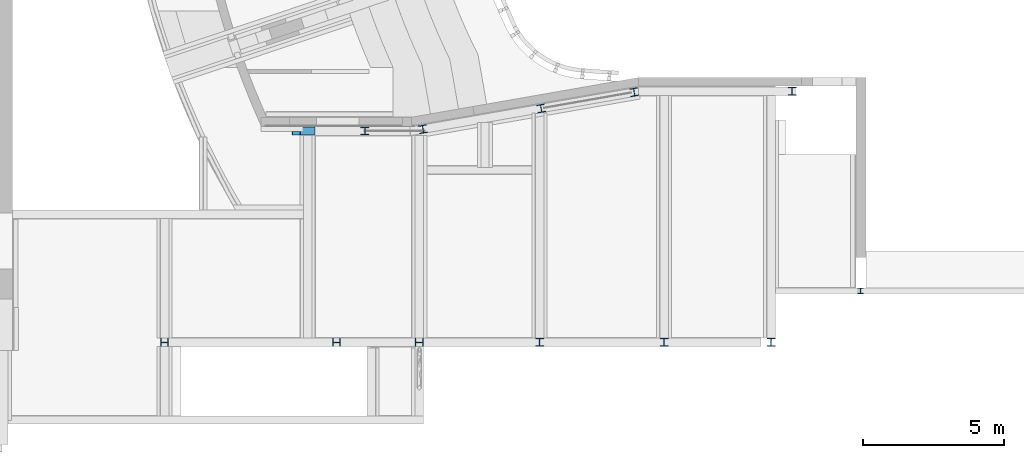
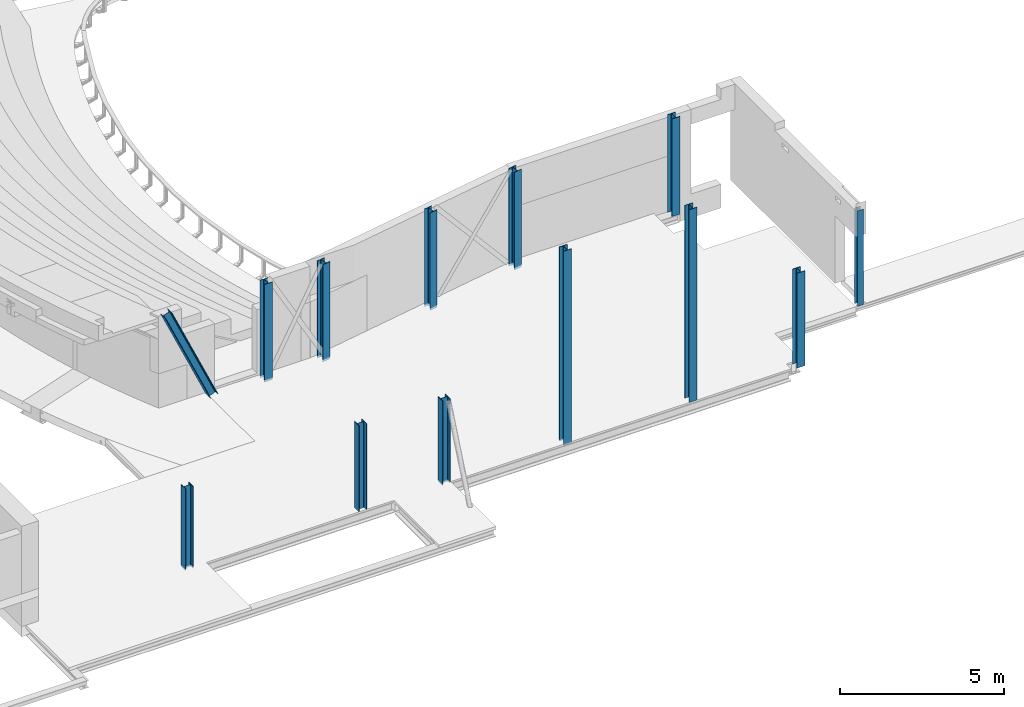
# One storey, part 5 of 68: 13 columns.
"""IFC2X3 building model written with IfcOpenShell, lengths in millimetres."""

from ifc_helpers import new_model, entity, si_unit, converted_unit, derived_unit, direction, frame, frame_2d, origin, place, context, subcontext, project, spatial, polyline, circle_curve, parameter, trimmed, segment, composite_curve, i_section, outline, extrude, source, transform, mapped, material, type_object, type_shapes, element, save


model = new_model("IFC2X3")

# Units and contexts
model_context = context("Model", 3, precision=0.01, world=origin(), true_north=direction((6.12303176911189e-17, 1.0)))
body_context = subcontext(model_context, "Body", "Model", "MODEL_VIEW")
ifc_project = project(units=[si_unit("LENGTHUNIT", "METRE", prefix="MILLI"), si_unit("AREAUNIT", "SQUARE_METRE", prefix="MILLI"), si_unit("VOLUMEUNIT", "CUBIC_METRE"), converted_unit("PLANEANGLEUNIT", "DEGREE", entity("IfcRatioMeasure", 0.0174532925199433), si_unit("PLANEANGLEUNIT", "RADIAN"), dimensions=[0, 0, 0, 0, 0, 0, 0]), si_unit("MASSUNIT", "GRAM", prefix="KILO"), derived_unit("MASSDENSITYUNIT", [(si_unit("MASSUNIT", "GRAM", prefix="KILO"), 1), (si_unit("LENGTHUNIT", "METRE"), -3)]), derived_unit("MOMENTOFINERTIAUNIT", [(si_unit("LENGTHUNIT", "METRE"), 4)]), si_unit("TIMEUNIT", "SECOND"), si_unit("FREQUENCYUNIT", "HERTZ"), si_unit("THERMODYNAMICTEMPERATUREUNIT", "DEGREE_CELSIUS"), derived_unit("THERMALTRANSMITTANCEUNIT", [(si_unit("MASSUNIT", "GRAM", prefix="KILO"), 1), (si_unit("THERMODYNAMICTEMPERATUREUNIT", "KELVIN"), -1), (si_unit("TIMEUNIT", "SECOND"), -3)]), derived_unit("VOLUMETRICFLOWRATEUNIT", [(si_unit("LENGTHUNIT", "METRE"), 3), (si_unit("TIMEUNIT", "SECOND"), -1)]), si_unit("ELECTRICCURRENTUNIT", "AMPERE"), si_unit("ELECTRICVOLTAGEUNIT", "VOLT"), si_unit("POWERUNIT", "WATT"), si_unit("FORCEUNIT", "NEWTON", prefix="KILO"), si_unit("ILLUMINANCEUNIT", "LUX"), si_unit("LUMINOUSFLUXUNIT", "LUMEN"), si_unit("LUMINOUSINTENSITYUNIT", "CANDELA"), derived_unit("USERDEFINED", [(si_unit("MASSUNIT", "GRAM", prefix="KILO"), -1), (si_unit("LENGTHUNIT", "METRE"), -2), (si_unit("TIMEUNIT", "SECOND"), 3), (si_unit("LUMINOUSFLUXUNIT", "LUMEN"), 1)]), derived_unit("LINEARVELOCITYUNIT", [(si_unit("LENGTHUNIT", "METRE"), 1), (si_unit("TIMEUNIT", "SECOND"), -1)]), si_unit("PRESSUREUNIT", "PASCAL"), derived_unit("USERDEFINED", [(si_unit("LENGTHUNIT", "METRE"), -2), (si_unit("MASSUNIT", "GRAM", prefix="KILO"), 1), (si_unit("TIMEUNIT", "SECOND"), -2)]), derived_unit("LINEARFORCEUNIT", [(si_unit("MASSUNIT", "GRAM", prefix="KILO"), 1), (si_unit("LENGTHUNIT", "METRE"), 1), (si_unit("TIMEUNIT", "SECOND"), -2), (si_unit("LENGTHUNIT", "METRE"), -1)]), derived_unit("PLANARFORCEUNIT", [(si_unit("MASSUNIT", "GRAM", prefix="KILO"), 1), (si_unit("LENGTHUNIT", "METRE"), 1), (si_unit("TIMEUNIT", "SECOND"), -2), (si_unit("LENGTHUNIT", "METRE"), -2)])], contexts=[model_context])

# Site, building, storey
site_placement = place(None, origin())
site = spatial("IfcSite", under=ifc_project, at=site_placement, Name="Theater aan de Parade", CompositionType="ELEMENT")
building_placement = place(site_placement, origin())
building = spatial("IfcBuilding", under=site, at=building_placement, Name="Theater aan de Parade", CompositionType="ELEMENT")
storey_placement = place(building_placement, frame((0.0, 0.0, 8750.0)))
storey = spatial("IfcBuildingStorey", under=building, at=storey_placement, Name="02 tweede verdieping", CompositionType="ELEMENT", Elevation=8750.0)

# Columns
ifc_material = material(Name="00_PBT_MAT_staal_S355")
column_type_1 = type_object("IfcColumnType", Name="28_PBT_SC_staal_H-profiel:S355_HE280B", PredefinedType="COLUMN", material=ifc_material)
shared_shape_1 = source(origin(), body_context, "Body", "SweptSolid", [
    extrude(i_section(OverallWidth=279.999999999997, OverallDepth=279.999999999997, WebThickness=10.4999999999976, FlangeThickness=18.0000000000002, FilletRadius=24.0000000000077, at=frame_2d((0.0, 4.32009983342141e-12), x_axis=(0.0, 1.0))), frame((49946.4713059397, 20445.0, 8590.0), z_axis=(0.0, 0.0, 1.0), x_axis=(0.0, -1.0, 0.0)), (0.0, 0.0, 1.0), 3630.0),
])
type_shapes(column_type_1, [shared_shape_1])
column_1_placement = place(storey_placement, frame((0.0, 0.0, -8750.0)))
element("IfcColumn", 1, at=column_1_placement, inside=storey, type_object=column_type_1, material=ifc_material, Name="28_PBT_SC_staal_H-profiel:S355_HE280B", ObjectType="28_PBT_SC_staal_H-profiel:S355_HE280B", context=body_context, shape_type="MappedRepresentation", body=[
    mapped(shared_shape_1, transform((0.0, 0.0, 0.0), scale=1.0)),
])
column_type_2 = type_object("IfcColumnType", Name="28_PBT_SC_staal_H-profiel:S355_HE280B", PredefinedType="COLUMN", material=ifc_material)
shared_shape_2 = source(origin(), body_context, "Body", "SweptSolid", [
    extrude(i_section(OverallWidth=279.999999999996, OverallDepth=280.000000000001, WebThickness=10.5000000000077, FlangeThickness=18.0, FilletRadius=24.0000000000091, at=frame_2d((7.38964445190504e-13, 4.2774672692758e-12), x_axis=(1.0, 0.0))), frame((56193.2454552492, 21244.1973974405, 8585.0), z_axis=(0.0, 0.0, 1.0), x_axis=(-0.985030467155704, -0.172380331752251, 0.0)), (0.0, 0.0, 1.0), 3630.0),
])
type_shapes(column_type_2, [shared_shape_2])
column_2_placement = place(storey_placement, frame((0.0, 0.0, -8750.0)))
element("IfcColumn", 2, at=column_2_placement, inside=storey, type_object=column_type_2, material=ifc_material, Name="28_PBT_SC_staal_H-profiel:S355_HE280B", ObjectType="28_PBT_SC_staal_H-profiel:S355_HE280B", context=body_context, shape_type="MappedRepresentation", body=[
    mapped(shared_shape_2, transform((0.0, 0.0, 0.0), scale=1.0)),
])
column_type_3 = type_object("IfcColumnType", Name="28_PBT_SC_staal_H-profiel:S355_HE280B", PredefinedType="COLUMN", material=ifc_material)
shared_shape_3 = source(origin(), body_context, "Body", "SweptSolid", [
    extrude(i_section(OverallWidth=279.999999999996, OverallDepth=280.000000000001, WebThickness=10.5000000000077, FlangeThickness=18.0, FilletRadius=24.0000000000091, at=frame_2d((-8.5265128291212e-12, 1.49213974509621e-12), x_axis=(1.0, 0.0))), frame((59491.1870358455, 21821.3371740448, 8585.0), z_axis=(0.0, 0.0, 1.0), x_axis=(-0.985030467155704, -0.172380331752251, 0.0)), (0.0, 0.0, 1.0), 3630.0),
])
type_shapes(column_type_3, [shared_shape_3])
column_3_placement = place(storey_placement, frame((0.0, 0.0, -8750.0)))
element("IfcColumn", 3, at=column_3_placement, inside=storey, type_object=column_type_3, material=ifc_material, Name="28_PBT_SC_staal_H-profiel:S355_HE280B", ObjectType="28_PBT_SC_staal_H-profiel:S355_HE280B", context=body_context, shape_type="MappedRepresentation", body=[
    mapped(shared_shape_3, transform((0.0, 0.0, 0.0), scale=1.0)),
])
column_type_4 = type_object("IfcColumnType", Name="28_PBT_SC_staal_H-profiel:S355_HE280B", PredefinedType="COLUMN", material=ifc_material)
shared_shape_4 = source(origin(), body_context, "Body", "SweptSolid", [
    extrude(i_section(OverallWidth=279.999999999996, OverallDepth=280.000000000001, WebThickness=10.5000000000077, FlangeThickness=18.0, FilletRadius=24.0000000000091, at=frame_2d((8.5265128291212e-12, -1.49213974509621e-12), x_axis=(1.0, 0.0))), frame((52005.6821149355, 20511.3738128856, 8585.0), z_axis=(0.0, 0.0, 1.0), x_axis=(-0.985030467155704, -0.172380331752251, 0.0)), (0.0, 0.0, 1.0), 3615.0),
])
type_shapes(column_type_4, [shared_shape_4])
column_4_placement = place(storey_placement, frame((0.0, 0.0, -8750.0)))
element("IfcColumn", 4, at=column_4_placement, inside=storey, type_object=column_type_4, material=ifc_material, Name="28_PBT_SC_staal_H-profiel:S355_HE280B", ObjectType="28_PBT_SC_staal_H-profiel:S355_HE280B", context=body_context, shape_type="MappedRepresentation", body=[
    mapped(shared_shape_4, transform((0.0, 0.0, 0.0), scale=1.0)),
])
column_type_5 = type_object("IfcColumnType", Name="28_PBT_SC_staal_H-profiel:S355_HE280B", PredefinedType="COLUMN", material=ifc_material)
shared_shape_5 = source(origin(), body_context, "Body", "SweptSolid", [
    extrude(i_section(OverallWidth=279.999999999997, OverallDepth=279.999999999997, WebThickness=10.5000000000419, FlangeThickness=18.0000000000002, FilletRadius=24.0000000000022, at=frame_2d((0.0, 4.32009983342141e-12), x_axis=(0.0, 1.0))), frame((65087.0520755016, 21855.0, 8590.0), z_axis=(0.0, 0.0, 1.0), x_axis=(0.0, -1.0, 0.0)), (0.0, 0.0, 1.0), 3630.0),
])
type_shapes(column_type_5, [shared_shape_5])
column_5_placement = place(storey_placement, frame((0.0, 0.0, -8750.0)))
element("IfcColumn", 5, at=column_5_placement, inside=storey, type_object=column_type_5, material=ifc_material, Name="28_PBT_SC_staal_H-profiel:S355_HE280B", ObjectType="28_PBT_SC_staal_H-profiel:S355_HE280B", context=body_context, shape_type="MappedRepresentation", body=[
    mapped(shared_shape_5, transform((0.0, 0.0, 0.0), scale=1.0)),
])
column_type_6 = type_object("IfcColumnType", Name="28_PBT_SC_staal_H-profiel:S355_HE280B", PredefinedType="COLUMN", material=ifc_material)
shared_shape_6 = source(origin(), body_context, "Body", "SweptSolid", [
    extrude(i_section(OverallWidth=279.999999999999, OverallDepth=280.000000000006, WebThickness=10.4999999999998, FlangeThickness=17.9999999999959, FilletRadius=24.0000000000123, at=frame_2d((1.08002495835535e-12, 0.0), x_axis=(1.0, 0.0))), frame((51875.3051596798, 12955.0, 8610.0), z_axis=(0.0, 0.0, 1.0), x_axis=(0.0, -1.0, 0.0)), (0.0, 0.0, 1.0), 3150.0),
])
type_shapes(column_type_6, [shared_shape_6])
column_6_placement = place(storey_placement, frame((0.0, 0.0, -8750.0)))
element("IfcColumn", 6, at=column_6_placement, inside=storey, type_object=column_type_6, material=ifc_material, Name="28_PBT_SC_staal_H-profiel:S355_HE280B", ObjectType="28_PBT_SC_staal_H-profiel:S355_HE280B", context=body_context, shape_type="MappedRepresentation", body=[
    mapped(shared_shape_6, transform((0.0, 0.0, 0.0), scale=1.0)),
])
column_type_7 = type_object("IfcColumnType", Name="28_PBT_SC_staal_H-profiel:S355_HE280B", PredefinedType="COLUMN", material=ifc_material)
shared_shape_7 = source(origin(), body_context, "Body", "SweptSolid", [
    extrude(i_section(OverallWidth=279.999999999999, OverallDepth=280.000000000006, WebThickness=10.4999999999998, FlangeThickness=17.9999999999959, FilletRadius=24.0000000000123, at=frame_2d((-1.08002495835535e-12, -8.65441052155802e-12), x_axis=(1.0, 0.0))), frame((42844.9091634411, 12955.0, 8610.0), z_axis=(0.0, 0.0, 1.0), x_axis=(0.0, -1.0, 0.0)), (0.0, 0.0, 1.0), 3040.0),
])
type_shapes(column_type_7, [shared_shape_7])
column_7_placement = place(storey_placement, frame((0.0, 0.0, -8750.0)))
element("IfcColumn", 7, at=column_7_placement, inside=storey, type_object=column_type_7, material=ifc_material, Name="28_PBT_SC_staal_H-profiel:S355_HE280B", ObjectType="28_PBT_SC_staal_H-profiel:S355_HE280B", context=body_context, shape_type="MappedRepresentation", body=[
    mapped(shared_shape_7, transform((0.0, 0.0, 0.0), scale=1.0)),
])
column_type_8 = type_object("IfcColumnType", Name="28_PBT_SC_staal_H-profiel:S355_HE280B", PredefinedType="COLUMN", material=ifc_material)
shared_shape_8 = source(origin(), body_context, "Body", "SweptSolid", [
    extrude(outline(composite_curve([segment(polyline([(122.0, -140.0), (140.0, -140.0)]), True, "CONTINUOUS"), segment(polyline([(140.0, -140.0), (140.0, 140.0)]), True, "CONTINUOUS"), segment(polyline([(140.0, 140.0), (122.0, 140.0)]), True, "CONTINUOUS"), segment(polyline([(122.0, 140.0), (122.0, 29.2500000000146)]), True, "CONTINUOUS"), segment(trimmed(circle_curve(frame_2d((98.0, 29.2500000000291), x_axis=(1.0, 0.0)), 24.0000000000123), [parameter(270.000000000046)], [parameter(0.0)], True, "PARAMETER"), False, "CONTINUOUS"), segment(polyline([(98.0, 5.25000000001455), (-98.0, 5.25000000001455)]), True, "CONTINUOUS"), segment(trimmed(circle_curve(frame_2d((-98.0, 29.2500000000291), x_axis=(0.0, -1.0)), 24.0000000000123), [parameter(270.000000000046)], [parameter(0.0)], True, "PARAMETER"), False, "CONTINUOUS"), segment(polyline([(-122.0, 29.2500000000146), (-122.0, 140.0)]), True, "CONTINUOUS"), segment(polyline([(-122.0, 140.0), (-140.0, 140.0)]), True, "CONTINUOUS"), segment(polyline([(-140.0, 140.0), (-140.0, -140.0)]), True, "CONTINUOUS"), segment(polyline([(-140.0, -140.0), (-122.0, -140.0)]), True, "CONTINUOUS"), segment(polyline([(-122.0, -140.0), (-122.0, -29.2499999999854)]), True, "CONTINUOUS"), segment(trimmed(circle_curve(frame_2d((-98.0, -29.2499999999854), x_axis=(-1.0, 0.0)), 24.0000000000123), [parameter(270.000000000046)], [parameter(0.0)], True, "PARAMETER"), False, "CONTINUOUS"), segment(polyline([(-98.0, -5.24999999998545), (98.0, -5.24999999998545)]), True, "CONTINUOUS"), segment(trimmed(circle_curve(frame_2d((98.0, -29.2499999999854), x_axis=(0.0, 1.0)), 24.0000000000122), [parameter(270.000000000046)], [parameter(0.0)], True, "PARAMETER"), False, "CONTINUOUS"), segment(polyline([(122.0, -29.2499999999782), (122.0, -140.0)]), True, "CONTINUOUS")], self_intersect=False)), frame((64344.5520755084, 12955.0, 8610.0), z_axis=(0.0, 0.0, 1.0), x_axis=(0.0, -1.0, 0.0)), (0.0, 0.0, 1.0), 3525.0),
])
type_shapes(column_type_8, [shared_shape_8])
column_8_placement = place(storey_placement, frame((0.0, 0.0, -8750.0)))
element("IfcColumn", 8, at=column_8_placement, inside=storey, type_object=column_type_8, material=ifc_material, Name="28_PBT_SC_staal_H-profiel:S355_HE280B", ObjectType="28_PBT_SC_staal_H-profiel:S355_HE280B", context=body_context, shape_type="MappedRepresentation", body=[
    mapped(shared_shape_8, transform((0.0, 0.0, 0.0), scale=1.0)),
])
column_type_9 = type_object("IfcColumnType", Name="28_PBT_SC_staal_H-profiel:S355_HE280B", PredefinedType="COLUMN", material=ifc_material)
shared_shape_9 = source(origin(), body_context, "Body", "SweptSolid", [
    extrude(outline(composite_curve([segment(polyline([(122.0, -140.0), (140.0, -140.0)]), True, "CONTINUOUS"), segment(polyline([(140.0, -140.0), (140.0, 140.0)]), True, "CONTINUOUS"), segment(polyline([(140.0, 140.0), (122.0, 140.0)]), True, "CONTINUOUS"), segment(polyline([(122.0, 140.0), (122.0, 29.2500000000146)]), True, "CONTINUOUS"), segment(trimmed(circle_curve(frame_2d((98.0, 29.2500000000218), x_axis=(1.0, 0.0)), 24.0000000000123), [parameter(270.000000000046)], [parameter(0.0)], True, "PARAMETER"), False, "CONTINUOUS"), segment(polyline([(98.0, 5.25000000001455), (-98.0, 5.25000000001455)]), True, "CONTINUOUS"), segment(trimmed(circle_curve(frame_2d((-98.0, 29.2500000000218), x_axis=(0.0, -1.0)), 24.0000000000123), [parameter(270.000000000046)], [parameter(0.0)], True, "PARAMETER"), False, "CONTINUOUS"), segment(polyline([(-122.0, 29.2500000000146), (-122.0, 140.0)]), True, "CONTINUOUS"), segment(polyline([(-122.0, 140.0), (-140.0, 140.0)]), True, "CONTINUOUS"), segment(polyline([(-140.0, 140.0), (-140.0, -140.0)]), True, "CONTINUOUS"), segment(polyline([(-140.0, -140.0), (-122.0, -140.0)]), True, "CONTINUOUS"), segment(polyline([(-122.0, -140.0), (-122.0, -29.2499999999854)]), True, "CONTINUOUS"), segment(trimmed(circle_curve(frame_2d((-98.0, -29.2499999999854), x_axis=(-1.0, 0.0)), 24.0000000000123), [parameter(270.000000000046)], [parameter(0.0)], True, "PARAMETER"), False, "CONTINUOUS"), segment(polyline([(-98.0, -5.24999999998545), (98.0, -5.24999999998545)]), True, "CONTINUOUS"), segment(trimmed(circle_curve(frame_2d((98.0, -29.2499999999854), x_axis=(0.0, 1.0)), 24.0000000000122), [parameter(270.000000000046)], [parameter(0.0)], True, "PARAMETER"), False, "CONTINUOUS"), segment(polyline([(122.0, -29.2499999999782), (122.0, -140.0)]), True, "CONTINUOUS")], self_intersect=False)), frame((56139.5687867, 12955.0, 8610.0), z_axis=(0.0, 0.0, 1.0), x_axis=(0.0, -1.0, 0.0)), (0.0, 0.0, 1.0), 7220.0),
])
type_shapes(column_type_9, [shared_shape_9])
column_9_placement = place(storey_placement, frame((0.0, 0.0, -8750.0)))
element("IfcColumn", 9, at=column_9_placement, inside=storey, type_object=column_type_9, material=ifc_material, Name="28_PBT_SC_staal_H-profiel:S355_HE280B", ObjectType="28_PBT_SC_staal_H-profiel:S355_HE280B", context=body_context, shape_type="MappedRepresentation", body=[
    mapped(shared_shape_9, transform((0.0, 0.0, 0.0), scale=1.0)),
])
column_type_10 = type_object("IfcColumnType", Name="28_PBT_SC_staal_H-profiel:S355_HE280B", PredefinedType="COLUMN", material=ifc_material)
shared_shape_10 = source(origin(), body_context, "Body", "SweptSolid", [
    extrude(i_section(OverallWidth=279.999999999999, OverallDepth=280.000000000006, WebThickness=10.4999999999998, FlangeThickness=17.9999999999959, FilletRadius=24.0000000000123, at=frame_2d((1.08002495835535e-12, 8.65441052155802e-12), x_axis=(1.0, 0.0))), frame((48938.580371, 12955.0, 8660.0), z_axis=(0.0, 0.0, 1.0), x_axis=(0.0, -1.0, 0.0)), (0.0, 0.0, 1.0), 3200.0),
])
type_shapes(column_type_10, [shared_shape_10])
column_10_placement = place(storey_placement, frame((0.0, 0.0, -8750.0)))
element("IfcColumn", 10, at=column_10_placement, inside=storey, type_object=column_type_10, material=ifc_material, Name="28_PBT_SC_staal_H-profiel:S355_HE280B", ObjectType="28_PBT_SC_staal_H-profiel:S355_HE280B", context=body_context, shape_type="MappedRepresentation", body=[
    mapped(shared_shape_10, transform((0.0, 0.0, 0.0), scale=1.0)),
])
column_type_11 = type_object("IfcColumnType", Name="28_PBT_SC_staal_H-profiel:S355_HE200B", PredefinedType="COLUMN", material=ifc_material)
shared_shape_11 = source(origin(), body_context, "Body", "SweptSolid", [
    extrude(i_section(OverallWidth=199.999999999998, OverallDepth=200.0, WebThickness=8.99999999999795, FlangeThickness=15.0000000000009, FilletRadius=17.9999999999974, at=frame_2d((1.08713038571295e-12, 4.33431068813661e-12), x_axis=(0.0, 1.0))), frame((67516.0563479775, 14780.0, 8650.0), z_axis=(0.0, 0.0, 1.0), x_axis=(0.0, -1.0, 0.0)), (0.0, 0.0, 1.0), 3550.0),
])
type_shapes(column_type_11, [shared_shape_11])
column_11_placement = place(storey_placement, frame((0.0, 0.0, -8750.0)))
element("IfcColumn", 11, at=column_11_placement, inside=storey, type_object=column_type_11, material=ifc_material, Name="28_PBT_SC_staal_H-profiel:S355_HE200B", ObjectType="28_PBT_SC_staal_H-profiel:S355_HE200B", context=body_context, shape_type="MappedRepresentation", body=[
    mapped(shared_shape_11, transform((0.0, 0.0, 0.0), scale=1.0)),
])
column_type_12 = type_object("IfcColumnType", Name="28_PBT_SC_staal_H-profiel:S355_HE280B", PredefinedType="COLUMN", material=ifc_material)
shared_shape_12 = source(origin(), body_context, "Body", "SweptSolid", [
    extrude(outline(composite_curve([segment(polyline([(122.0, -140.0), (140.0, -140.0)]), True, "CONTINUOUS"), segment(polyline([(140.0, -140.0), (140.0, 140.0)]), True, "CONTINUOUS"), segment(polyline([(140.0, 140.0), (122.0, 140.0)]), True, "CONTINUOUS"), segment(polyline([(122.0, 140.0), (122.0, 29.2499999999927)]), True, "CONTINUOUS"), segment(trimmed(circle_curve(frame_2d((98.0, 29.2500000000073), x_axis=(1.0, 0.0)), 24.0000000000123), [parameter(270.000000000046)], [parameter(0.0)], True, "PARAMETER"), False, "CONTINUOUS"), segment(polyline([(98.0, 5.24999999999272), (-98.0, 5.24999999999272)]), True, "CONTINUOUS"), segment(trimmed(circle_curve(frame_2d((-98.0, 29.2500000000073), x_axis=(0.0, -1.0)), 24.0000000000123), [parameter(270.000000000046)], [parameter(0.0)], True, "PARAMETER"), False, "CONTINUOUS"), segment(polyline([(-122.0, 29.2499999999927), (-122.0, 140.0)]), True, "CONTINUOUS"), segment(polyline([(-122.0, 140.0), (-140.0, 140.0)]), True, "CONTINUOUS"), segment(polyline([(-140.0, 140.0), (-140.0, -140.0)]), True, "CONTINUOUS"), segment(polyline([(-140.0, -140.0), (-122.0, -140.0)]), True, "CONTINUOUS"), segment(polyline([(-122.0, -140.0), (-122.0, -29.2500000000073)]), True, "CONTINUOUS"), segment(trimmed(circle_curve(frame_2d((-98.0, -29.2500000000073), x_axis=(-1.0, 0.0)), 24.0000000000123), [parameter(270.000000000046)], [parameter(0.0)], True, "PARAMETER"), False, "CONTINUOUS"), segment(polyline([(-98.0, -5.25000000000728), (98.0, -5.25000000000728)]), True, "CONTINUOUS"), segment(trimmed(circle_curve(frame_2d((98.0, -29.2500000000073), x_axis=(0.0, 1.0)), 24.0000000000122), [parameter(270.000000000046)], [parameter(0.0)], True, "PARAMETER"), False, "CONTINUOUS"), segment(polyline([(122.0, -29.25), (122.0, -140.0)]), True, "CONTINUOUS")], self_intersect=False)), frame((60550.83241379, 12955.0, 8660.0), z_axis=(0.0, 0.0, 1.0), x_axis=(0.0, -1.0, 0.0)), (0.0, 0.0, 1.0), 7170.0),
])
type_shapes(column_type_12, [shared_shape_12])
column_12_placement = place(storey_placement, frame((0.0, 0.0, -8750.0)))
element("IfcColumn", 12, at=column_12_placement, inside=storey, type_object=column_type_12, material=ifc_material, Name="28_PBT_SC_staal_H-profiel:S355_HE280B", ObjectType="28_PBT_SC_staal_H-profiel:S355_HE280B", context=body_context, shape_type="MappedRepresentation", body=[
    mapped(shared_shape_12, transform((0.0, 0.0, 0.0), scale=1.0)),
])
column_type_13 = type_object("IfcColumnType", Name="28_PBT_SC_staal_H-profiel:S355_HE280B", PredefinedType="COLUMN", material=ifc_material)
shared_shape_13 = source(origin(), body_context, "Body", "SweptSolid", [
    extrude(i_section(OverallWidth=280.000000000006, OverallDepth=279.999999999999, WebThickness=10.5000000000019, FlangeThickness=18.0000000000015, FilletRadius=24.0000000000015, at=frame_2d((2.1600499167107e-12, -2.27373675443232e-13), x_axis=(1.0, 0.0))), frame((48045.7142831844, 20445.0, 8684.06995470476), z_axis=(-0.411514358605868, 0.0, 0.911403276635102), x_axis=(0.0, -1.0, 0.0)), (0.0, 0.0, 1.0), 3900.0),
])
type_shapes(column_type_13, [shared_shape_13])
column_13_placement = place(storey_placement, frame((0.0, 0.0, -8750.0)))
element("IfcColumn", 13, at=column_13_placement, inside=storey, type_object=column_type_13, material=ifc_material, Name="28_PBT_SC_staal_H-profiel:S355_HE280B", ObjectType="28_PBT_SC_staal_H-profiel:S355_HE280B", context=body_context, shape_type="MappedRepresentation", body=[
    mapped(shared_shape_13, transform((0.0, 0.0, 0.0), scale=1.0)),
])

save(model, "model.ifc")
